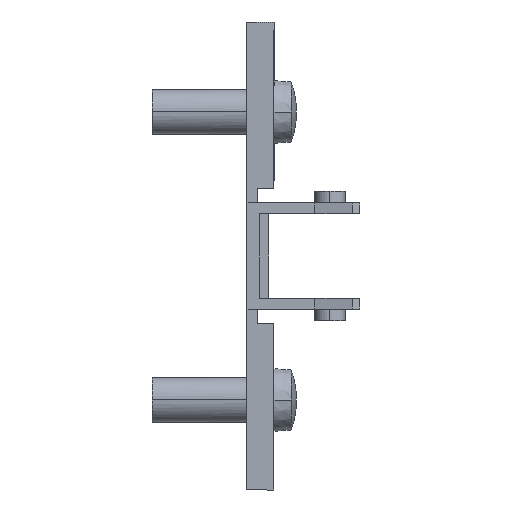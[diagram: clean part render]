
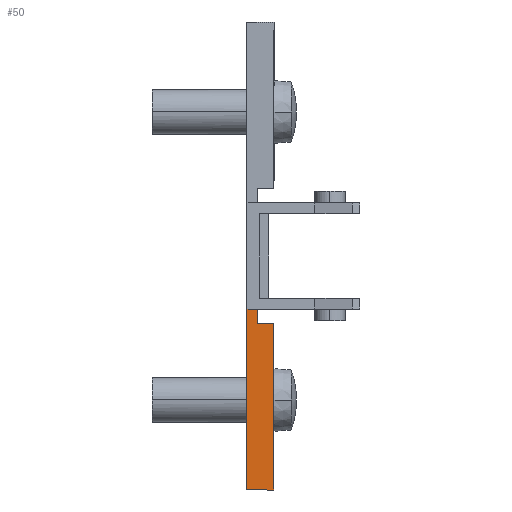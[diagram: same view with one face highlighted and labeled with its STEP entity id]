
A CAD part, front view. The second image highlights one B-rep face of the part: STEP entity #50.
In plain terms, the highlighted planar face has unit normal (0, -1, 0).
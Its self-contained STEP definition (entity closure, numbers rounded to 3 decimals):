
#50 = ADVANCED_FACE ( 'NONE', ( #2290 ), #289, .F. ) ;
#223 = VECTOR ( 'NONE', #2830, 1000. ) ;
#225 = LINE ( 'NONE', #2823, #223 ) ;
#234 = VECTOR ( 'NONE', #2818, 1000. ) ;
#236 = LINE ( 'NONE', #2811, #234 ) ;
#270 = CARTESIAN_POINT ( 'NONE',  ( 1.2, -9., -5. ) ) ;
#289 = PLANE ( 'NONE',  #654 ) ;
#297 = VERTEX_POINT ( 'NONE', #2619 ) ;
#331 = VERTEX_POINT ( 'NONE', #2653 ) ;
#353 = VERTEX_POINT ( 'NONE', #2675 ) ;
#480 = EDGE_CURVE ( 'NONE', #1235, #1258, #1416, .T. ) ;
#562 = EDGE_CURVE ( 'NONE', #2270, #1258, #904, .T. ) ;
#578 = EDGE_CURVE ( 'NONE', #353, #1235, #236, .T. ) ;
#587 = EDGE_CURVE ( 'NONE', #297, #331, #225, .T. ) ;
#654 = AXIS2_PLACEMENT_3D ( 'NONE', #270, #2360, #2361 ) ;
#821 = EDGE_CURVE ( 'NONE', #331, #353, #1057, .T. ) ;
#856 = EDGE_CURVE ( 'NONE', #2270, #297, #993, .T. ) ;
#900 = VECTOR ( 'NONE', #2799, 1000. ) ;
#904 = LINE ( 'NONE', #2796, #900 ) ;
#992 = VECTOR ( 'NONE', #3328, 1000. ) ;
#993 = LINE ( 'NONE', #3327, #992 ) ;
#1057 = LINE ( 'NONE', #3274, #1069 ) ;
#1069 = VECTOR ( 'NONE', #3275, 1000. ) ;
#1235 = VERTEX_POINT ( 'NONE', #3382 ) ;
#1258 = VERTEX_POINT ( 'NONE', #3404 ) ;
#1411 = VECTOR ( 'NONE', #2697, 1000. ) ;
#1416 = LINE ( 'NONE', #2694, #1411 ) ;
#1577 = EDGE_LOOP ( 'NONE', ( #1824, #1825, #2298, #2325, #2297, #2306 ) ) ;
#1824 = ORIENTED_EDGE ( 'NONE', *, *, #562, .F. ) ;
#1825 = ORIENTED_EDGE ( 'NONE', *, *, #856, .T. ) ;
#2270 = VERTEX_POINT ( 'NONE', #3477 ) ;
#2290 = FACE_OUTER_BOUND ( 'NONE', #1577, .T. ) ;
#2297 = ORIENTED_EDGE ( 'NONE', *, *, #578, .T. ) ;
#2298 = ORIENTED_EDGE ( 'NONE', *, *, #587, .T. ) ;
#2306 = ORIENTED_EDGE ( 'NONE', *, *, #480, .T. ) ;
#2325 = ORIENTED_EDGE ( 'NONE', *, *, #821, .T. ) ;
#2360 = DIRECTION ( 'NONE',  ( 0., 1., 0. ) ) ;
#2361 = DIRECTION ( 'NONE',  ( 0., 0., 1. ) ) ;
#2619 = CARTESIAN_POINT ( 'NONE',  ( 0., -9., -26. ) ) ;
#2653 = CARTESIAN_POINT ( 'NONE',  ( 3., -9., -26. ) ) ;
#2675 = CARTESIAN_POINT ( 'NONE',  ( 3., -9., -7.5 ) ) ;
#2694 = CARTESIAN_POINT ( 'NONE',  ( 1.2, -9., -5. ) ) ;
#2697 = DIRECTION ( 'NONE',  ( 0., 0., 1. ) ) ;
#2796 = CARTESIAN_POINT ( 'NONE',  ( 1.2, -9., -5.9 ) ) ;
#2799 = DIRECTION ( 'NONE',  ( 1., 0., 0. ) ) ;
#2811 = CARTESIAN_POINT ( 'NONE',  ( 1.2, -9., -7.5 ) ) ;
#2818 = DIRECTION ( 'NONE',  ( -1., 0., 0. ) ) ;
#2823 = CARTESIAN_POINT ( 'NONE',  ( 3., -9., -26. ) ) ;
#2830 = DIRECTION ( 'NONE',  ( 1., 0., 0. ) ) ;
#3274 = CARTESIAN_POINT ( 'NONE',  ( 3., -9., -7.5 ) ) ;
#3275 = DIRECTION ( 'NONE',  ( 0., 0., 1. ) ) ;
#3327 = CARTESIAN_POINT ( 'NONE',  ( 0., -9., -26. ) ) ;
#3328 = DIRECTION ( 'NONE',  ( 0., 0., -1. ) ) ;
#3382 = CARTESIAN_POINT ( 'NONE',  ( 1.2, -9., -7.5 ) ) ;
#3404 = CARTESIAN_POINT ( 'NONE',  ( 1.2, -9., -5.9 ) ) ;
#3477 = CARTESIAN_POINT ( 'NONE',  ( 0., -9., -5.9 ) ) ;
